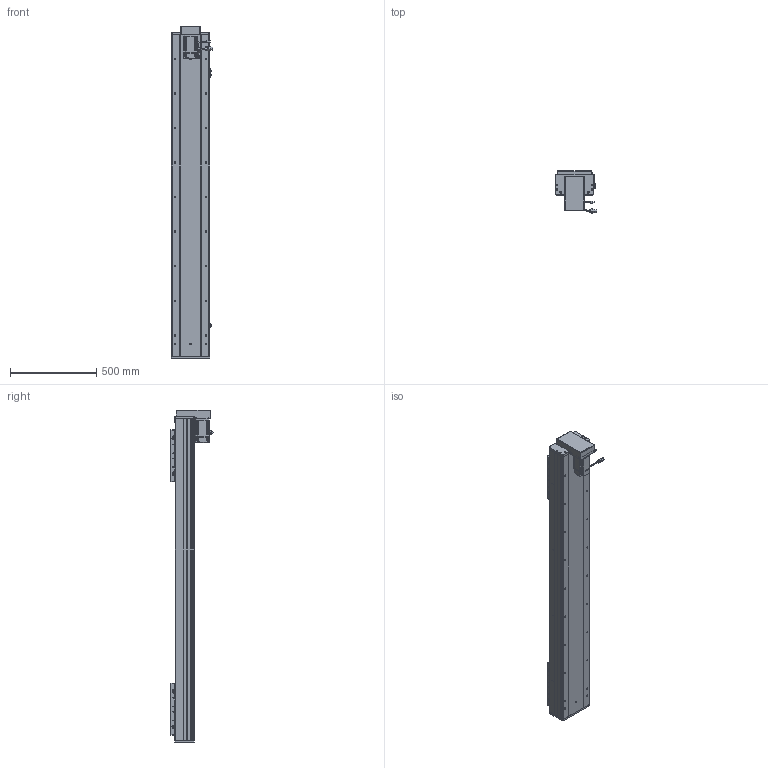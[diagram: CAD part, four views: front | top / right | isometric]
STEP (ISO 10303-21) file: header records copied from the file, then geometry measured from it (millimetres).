
FILE_DESCRIPTION (( 'STEP AP203' ), '1' );
FILE_NAME ('RY220F-L2525-300-BK.SLDASM_1450.step', '2022-07-04T01:21:15', ( '' ), ( '' ), 'SwSTEP 2.0', 'SolidWorks 2016', '' );
FILE_SCHEMA (( 'CONFIG_CONTROL_DESIGN' ));
Length unit declared in the file: millimetre
Products named in the file (15): RY220F蛌殏菁釱-300_1450; 怢湛750W_ECMA-CX0807ES; RY220F-祥凄詩湍-蛌殏-300_1450; RY220F臏賑釱25-32佪裝; 覜茼ん672; RY220狟殏萇儂假蚾啣; RY220F綴裔啣; RY220F-滅鳥奻裔; RY220F-蛌殏奻裔啣-300_1450; RY220狟殏萇儂欶; 滅袉蝶18-24; RY220F-詩湍揤踡輸; RY220F-672覜茼んえ; RY220F-L2525-300-BK.SLDASM_1450; 侐源滅袉蝶
Assembly tree (24 placements, depth 2):
  RY220F-L2525-300-BK.SLDASM_1450
    RY220F蛌殏菁釱-300_1450
    RY220F-蛌殏奻裔啣-300_1450  x2
    怢湛750W_ECMA-CX0807ES
    RY220F臏賑釱25-32佪裝  x2
    RY220F-滅鳥奻裔  x2
    滅袉蝶18-24  x3
    RY220F綴裔啣
    RY220F-祥凄詩湍-蛌殏-300_1450
    RY220F-詩湍揤踡輸  x2
    覜茼ん672  x3
    RY220F-672覜茼んえ  x2
    侐源滅袉蝶  x2
    RY220狟殏萇儂假蚾啣
    RY220狟殏萇儂欶
Bounding box: 237.27 x 247.24 x 1921 mm (x, y, z)
Volume: 17393221.7 mm3; surface area: 4539855.4 mm2
Topology: 25 solids, 25 shells, 2823 faces, 7666 edges, 4731 vertices
Faces by surface type: cylinder 1262, plane 1062, cone 428, bspline 45, sphere 16, torus 10
Entity records: 70145 total; most frequent: CARTESIAN_POINT 18901, ORIENTED_EDGE 10346, DIRECTION 10089, EDGE_CURVE 5173, AXIS2_PLACEMENT_3D 3586, VERTEX_POINT 3347, VECTOR 2917, LINE 2917
